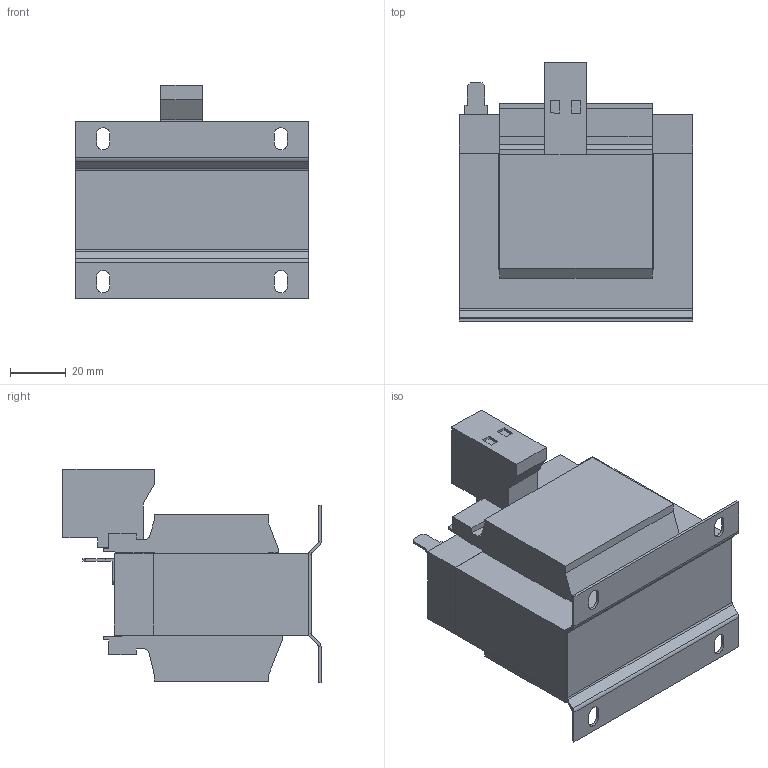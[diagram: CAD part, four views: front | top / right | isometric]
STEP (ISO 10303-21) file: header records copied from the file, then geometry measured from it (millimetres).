
FILE_DESCRIPTION(/* description */ (''),/* implementation_level */ '2;1');
FILE_NAME(/* name */ '0000003918_AX2090-ND80-0010.stp',/* time_stamp */ '2024-12-03T07:52:30+01:00',/* author */ ('JohannHe'),/* organization */ (''),/* preprocessor_version */ 'ST-DEVELOPER v20',/* originating_system */ 'Autodesk Inventor 2024',/* authorisation */ '');
FILE_SCHEMA (('AUTOMOTIVE_DESIGN { 1 0 10303 214 3 1 1 }'));
Length unit declared in the file: millimetre
Products named in the file (1): AX2090-ND80-0010
Bounding box: 84 x 93.05 x 77.1 mm (x, y, z)
Volume: 273304.4 mm3; surface area: 49717.2 mm2
Topology: 1 solids, 1 shells, 171 faces, 446 edges, 280 vertices
Faces by surface type: plane 141, cylinder 30
Entity records: 5371 total; most frequent: CARTESIAN_POINT 898, ORIENTED_EDGE 892, DIRECTION 850, EDGE_CURVE 446, LINE 386, VECTOR 386, VERTEX_POINT 280, AXIS2_PLACEMENT_3D 232
